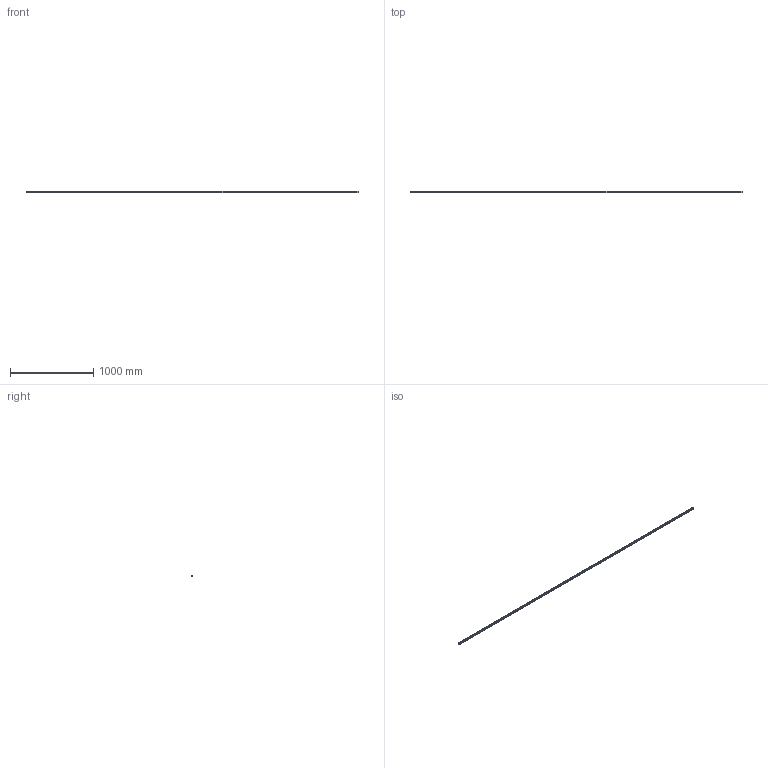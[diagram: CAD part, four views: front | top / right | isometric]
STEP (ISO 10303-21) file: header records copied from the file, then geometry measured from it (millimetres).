
FILE_DESCRIPTION(('FreeCAD Model'),'2;1');
FILE_NAME('Open CASCADE Shape Model','2024-12-05T10:34:41',('Author'),( ''),'Open CASCADE STEP processor 7.6','FreeCAD','Unknown');
FILE_SCHEMA(('AUTOMOTIVE_DESIGN { 1 0 10303 214 1 1 1 1 }'));
Length unit declared in the file: millimetre
Products named in the file (1): ER20-R-4000-20-20
Bounding box: 4000 x 15.5 x 20 mm (x, y, z)
Volume: 1097651.8 mm3; surface area: 308587.2 mm2
Topology: 1 solids, 1 shells, 287 faces, 665 edges, 447 vertices
Faces by surface type: cylinder 146, plane 141
Full cylindrical faces by diameter (mm): 6 x67, 9.5 x67
Entity records: 8494 total; most frequent: CARTESIAN_POINT 1534, DIRECTION 1458, ORIENTED_EDGE 1330, EDGE_CURVE 665, AXIS2_PLACEMENT_3D 639, FACE_BOUND 488, EDGE_LOOP 488, VERTEX_POINT 447
